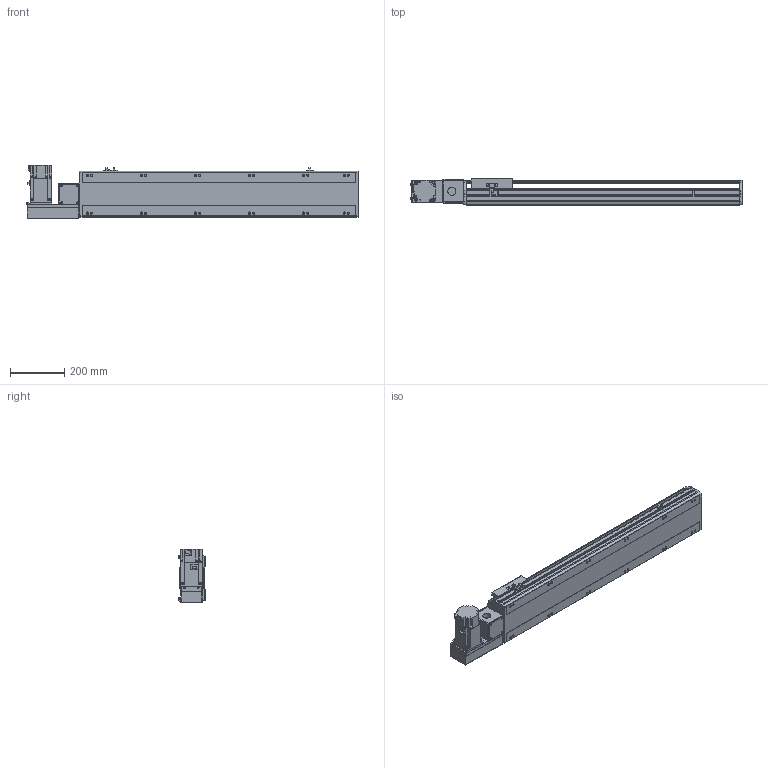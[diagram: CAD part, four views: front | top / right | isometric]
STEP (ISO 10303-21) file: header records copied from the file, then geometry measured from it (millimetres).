
FILE_DESCRIPTION( ( 'STEP AP214' ), '1' );
FILE_NAME( 'x:/temp/worker_3/temp/exporttempdir_5796_97_m7eF5/format_0/PBS170-P40-S750-L-T75-C1-N(0).stp', '2022-06-07T06:54:31', ( 'License CC BY-ND 4.0' ), ( 'CADENAS' ), ' ', 'PARTsolutions', ' ' );
FILE_SCHEMA( ( 'AUTOMOTIVE_DESIGN { 1 0 10303 214 1 1 1 1 }' ) );
Length unit declared in the file: millimetre
Products named in the file (7): PBS170-P40-S750-L-T75-C1-N(0); _PBS170-S750()_body; _PBS170T-L_motors; _T75-p1; _PBS170_sliser; _PBS170_plant; _PBS170_sensor
Assembly tree (8 placements, depth 2):
  PBS170-P40-S750-L-T75-C1-N(0)
    _PBS170-S750()_body
    _PBS170T-L_motors
    _T75-p1
    _PBS170_sliser
    _PBS170_plant
    _PBS170_sensor  x3
Bounding box: 1228 x 97 x 197.3 mm (x, y, z)
Volume: 9209679.8 mm3; surface area: 1225028 mm2
Topology: 8 solids, 8 shells, 1050 faces, 2795 edges, 1822 vertices
Faces by surface type: plane 675, cylinder 323, cone 42, sphere 8, torus 2
Full cylindrical faces by diameter (mm): 3.242 x4, 4 x2, 4.4 x4, 4.5 x6, 4.917 x4, 6 x9, 6.647 x20, 7 x2, 7.5 x4, 8 x8, 8.5 x12, 10 x4, 10.5 x12, 11 x2, 30 x2, 40 x1, 70 x1
Entity records: 38456 total; most frequent: CARTESIAN_POINT 5885, DIRECTION 5160, ORIENTED_EDGE 4908, EDGE_CURVE 2454, AXIS2_PLACEMENT_3D 1777, VERTEX_POINT 1682, LINE 1606, VECTOR 1606
